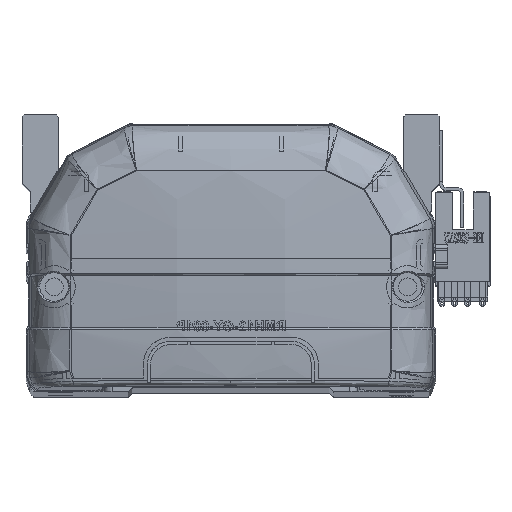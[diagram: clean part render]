
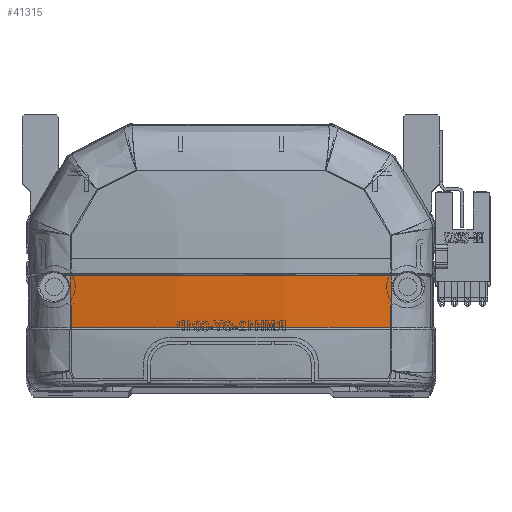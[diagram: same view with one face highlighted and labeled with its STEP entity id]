
A CAD part, top view. The second image highlights one B-rep face of the part: STEP entity #41315.
In plain terms, the highlighted free-form (B-spline) face has degree [3, 3] with [4, 4] control points.
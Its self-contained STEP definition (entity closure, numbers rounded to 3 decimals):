
#891 = CARTESIAN_POINT ( 'NONE',  ( 40.461, 28.832, -6.296 ) ) ;
#5228 = VERTEX_POINT ( 'NONE', #37613 ) ;
#5814 = CARTESIAN_POINT ( 'NONE',  ( -40.461, 24.47, -6.231 ) ) ;
#6065 = VERTEX_POINT ( 'NONE', #32211 ) ;
#6322 = EDGE_CURVE ( 'NONE', #43527, #5228, #48598, .T. ) ;
#6516 = EDGE_CURVE ( 'NONE', #6065, #60532, #10850, .T. ) ;
#8185 = CARTESIAN_POINT ( 'NONE',  ( 13.375, 28.707, -9.468 ) ) ;
#8403 = CARTESIAN_POINT ( 'NONE',  ( -39.985, 15.83, -5.879 ) ) ;
#8757 = EDGE_LOOP ( 'NONE', ( #18261, #46924, #60389, #50151 ) ) ;
#8776 = CARTESIAN_POINT ( 'NONE',  ( 39.963, 28.706, -6.372 ) ) ;
#9123 = EDGE_CURVE ( 'NONE', #43527, #60532, #45114, .T. ) ;
#9911 =( BOUNDED_SURFACE ( )  B_SPLINE_SURFACE ( 3, 3, ( 
 ( #48478, #29824, #20378, #891 ),
 ( #33903, #43770, #29019, #43176 ),
 ( #53189, #19980, #33705, #38435 ),
 ( #15502, #15086, #5814, #47866 ) ),
 .UNSPECIFIED., .F., .F., .F. ) 
 B_SPLINE_SURFACE_WITH_KNOTS ( ( 4, 4 ),
 ( 4, 4 ),
 ( 0., 1. ),
 ( 0., 1. ),
 .UNSPECIFIED. ) 
 GEOMETRIC_REPRESENTATION_ITEM ( )  RATIONAL_B_SPLINE_SURFACE ( (
 ( 1., 1., 1., 1.),
 ( 0.992, 0.992, 0.992, 0.992),
 ( 0.992, 0.992, 0.992, 0.992),
 ( 1., 1., 1., 1.) ) ) 
 REPRESENTATION_ITEM ( '' )  SURFACE ( )  );
#10850 = B_SPLINE_CURVE_WITH_KNOTS ( 'NONE', 3,
 ( #11506, #25676, #35518, #8403 ),
 .UNSPECIFIED., .F., .F.,
 ( 4, 4 ),
 ( 0., 1. ),
 .UNSPECIFIED. ) ;
#11506 = CARTESIAN_POINT ( 'NONE',  ( -39.963, 28.706, -6.372 ) ) ;
#15086 = CARTESIAN_POINT ( 'NONE',  ( -40.461, 20.111, -6.066 ) ) ;
#15502 = CARTESIAN_POINT ( 'NONE',  ( -40.461, 15.757, -5.8 ) ) ;
#15821 = CARTESIAN_POINT ( 'NONE',  ( 13.38, 15.83, -8.984 ) ) ;
#15859 = CARTESIAN_POINT ( 'NONE',  ( 39.973, 20.12, -6.142 ) ) ;
#17827 = CARTESIAN_POINT ( 'NONE',  ( -39.963, 28.706, -6.372 ) ) ;
#18261 = ORIENTED_EDGE ( 'NONE', *, *, #6322, .T. ) ;
#18745 = B_SPLINE_CURVE_WITH_KNOTS ( 'NONE', 3,
 ( #17827, #36299, #45726, #8185, #36103, #8776 ),
 .UNSPECIFIED., .F., .F.,
 ( 4, 2, 4 ),
 ( 0., 0.5, 1. ),
 .UNSPECIFIED. ) ;
#19980 = CARTESIAN_POINT ( 'NONE',  ( -13.598, 19.918, -10.302 ) ) ;
#20378 = CARTESIAN_POINT ( 'NONE',  ( 40.461, 24.47, -6.231 ) ) ;
#20497 = CARTESIAN_POINT ( 'NONE',  ( -36.679, 15.83, -6.395 ) ) ;
#25676 = CARTESIAN_POINT ( 'NONE',  ( -39.966, 24.412, -6.306 ) ) ;
#29019 = CARTESIAN_POINT ( 'NONE',  ( 13.598, 24.342, -10.47 ) ) ;
#29561 = CARTESIAN_POINT ( 'NONE',  ( 39.966, 24.413, -6.306 ) ) ;
#29824 = CARTESIAN_POINT ( 'NONE',  ( 40.461, 20.111, -6.066 ) ) ;
#32211 = CARTESIAN_POINT ( 'NONE',  ( -39.963, 28.706, -6.372 ) ) ;
#33705 = CARTESIAN_POINT ( 'NONE',  ( -13.598, 24.342, -10.47 ) ) ;
#33903 = CARTESIAN_POINT ( 'NONE',  ( 13.598, 15.499, -10.032 ) ) ;
#34008 = CARTESIAN_POINT ( 'NONE',  ( -26.721, 15.83, -7.624 ) ) ;
#35518 = CARTESIAN_POINT ( 'NONE',  ( -39.973, 20.118, -6.142 ) ) ;
#36103 = CARTESIAN_POINT ( 'NONE',  ( 26.749, 28.706, -8.432 ) ) ;
#36299 = CARTESIAN_POINT ( 'NONE',  ( -26.748, 28.706, -8.432 ) ) ;
#37613 = CARTESIAN_POINT ( 'NONE',  ( 39.963, 28.706, -6.372 ) ) ;
#38435 = CARTESIAN_POINT ( 'NONE',  ( -13.598, 28.769, -10.535 ) ) ;
#38953 = CARTESIAN_POINT ( 'NONE',  ( -33.365, 15.83, -6.848 ) ) ;
#39155 = CARTESIAN_POINT ( 'NONE',  ( 39.985, 15.83, -5.879 ) ) ;
#40323 = CARTESIAN_POINT ( 'NONE',  ( -39.985, 15.83, -5.879 ) ) ;
#41315 = ADVANCED_FACE ( 'NONE', ( #51696 ), #9911, .F. ) ;
#43176 = CARTESIAN_POINT ( 'NONE',  ( 13.598, 28.769, -10.535 ) ) ;
#43527 = VERTEX_POINT ( 'NONE', #49843 ) ;
#43770 = CARTESIAN_POINT ( 'NONE',  ( 13.598, 19.918, -10.302 ) ) ;
#44118 = CARTESIAN_POINT ( 'NONE',  ( 39.985, 15.83, -5.879 ) ) ;
#45114 = B_SPLINE_CURVE_WITH_KNOTS ( 'NONE', 3,
 ( #39155, #48809, #15821, #53290, #58077, #52894, #34008, #38953, #20497, #48183 ),
 .UNSPECIFIED., .F., .F.,
 ( 4, 2, 2, 2, 4 ),
 ( 0., 0.04, 0.06, 0.07, 0.08 ),
 .UNSPECIFIED. ) ;
#45726 = CARTESIAN_POINT ( 'NONE',  ( -13.373, 28.707, -9.468 ) ) ;
#46924 = ORIENTED_EDGE ( 'NONE', *, *, #50755, .F. ) ;
#47866 = CARTESIAN_POINT ( 'NONE',  ( -40.461, 28.832, -6.296 ) ) ;
#48183 = CARTESIAN_POINT ( 'NONE',  ( -39.985, 15.83, -5.879 ) ) ;
#48478 = CARTESIAN_POINT ( 'NONE',  ( 40.461, 15.757, -5.8 ) ) ;
#48598 = B_SPLINE_CURVE_WITH_KNOTS ( 'NONE', 3,
 ( #44118, #15859, #29561, #58325 ),
 .UNSPECIFIED., .F., .F.,
 ( 4, 4 ),
 ( 0., 1. ),
 .UNSPECIFIED. ) ;
#48809 = CARTESIAN_POINT ( 'NONE',  ( 26.761, 15.83, -7.945 ) ) ;
#49843 = CARTESIAN_POINT ( 'NONE',  ( 39.985, 15.83, -5.879 ) ) ;
#50151 = ORIENTED_EDGE ( 'NONE', *, *, #9123, .F. ) ;
#50755 = EDGE_CURVE ( 'NONE', #6065, #5228, #18745, .T. ) ;
#51696 = FACE_OUTER_BOUND ( 'NONE', #8757, .T. ) ;
#52894 = CARTESIAN_POINT ( 'NONE',  ( -23.389, 15.83, -7.947 ) ) ;
#53189 = CARTESIAN_POINT ( 'NONE',  ( -13.598, 15.499, -10.032 ) ) ;
#53290 = CARTESIAN_POINT ( 'NONE',  ( -6.692, 15.83, -8.984 ) ) ;
#58077 = CARTESIAN_POINT ( 'NONE',  ( -13.384, 15.83, -8.724 ) ) ;
#58325 = CARTESIAN_POINT ( 'NONE',  ( 39.963, 28.706, -6.372 ) ) ;
#60389 = ORIENTED_EDGE ( 'NONE', *, *, #6516, .T. ) ;
#60532 = VERTEX_POINT ( 'NONE', #40323 ) ;
